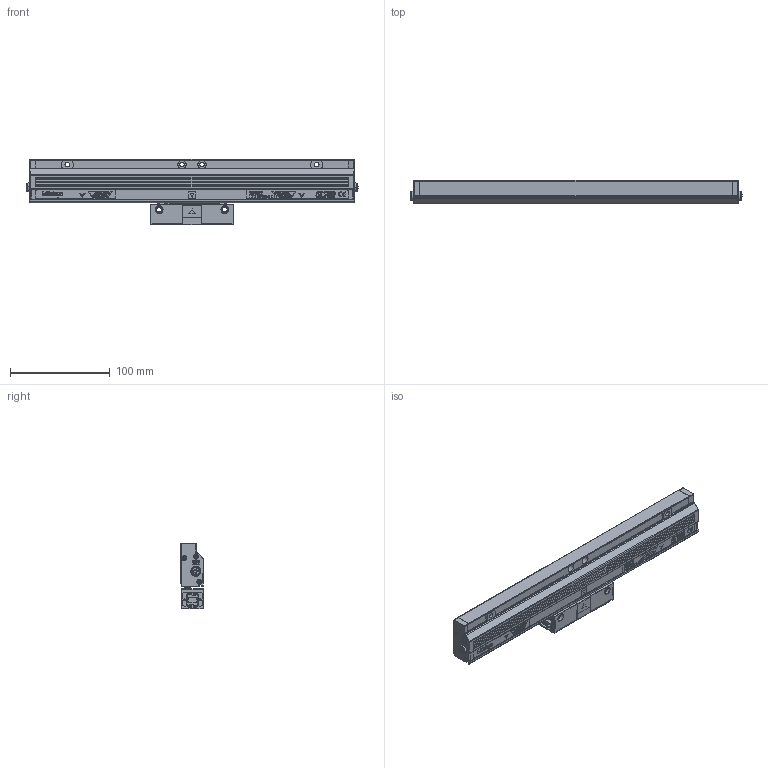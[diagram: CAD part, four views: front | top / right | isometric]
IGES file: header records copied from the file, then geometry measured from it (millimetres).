
Start section: Elysium IGES Interface
Global section: file name: 99H\\Utsu119s\kiyo_cad\data\3D\ABS AT1300\HP掲載用_201802\ABS AT1300-Sシリーズ\PKG\ABS AT1300-200S.igs; native system: Creo Elements/Direct Modeling 18.1B  29-Sep-2012; preprocessor: Creo Element/Direct IGES_3D V2.2; author: Unknown; organization: Unknown; date: 20180223.093115; units: millimetre
Bounding box: 332.9 x 23 x 66 mm (x, y, z)
Volume: 309891.3 mm3; surface area: 60932.6 mm2
Topology: 2 solids, 10 shells, 1217 faces, 3500 edges, 2428 vertices
Faces by surface type: bspline 1217
